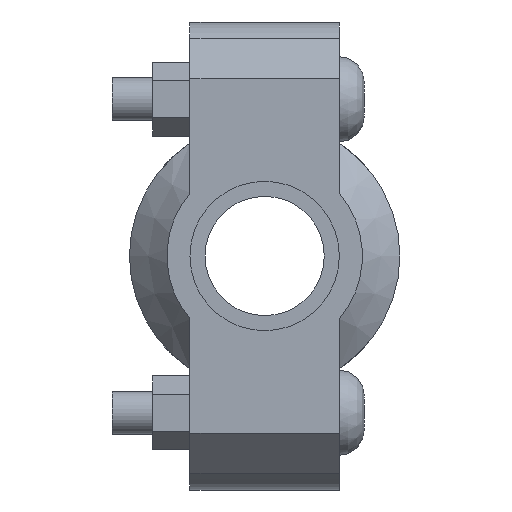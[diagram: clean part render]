
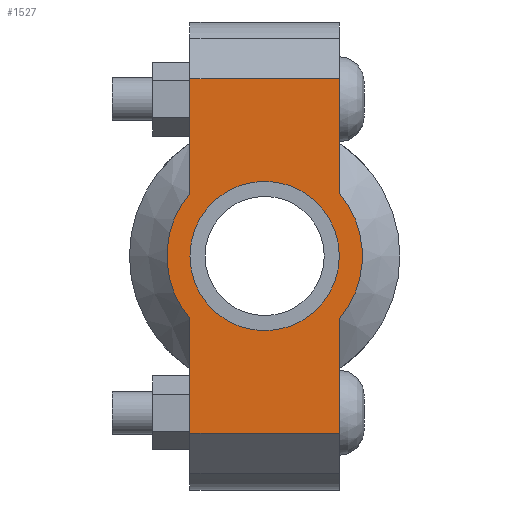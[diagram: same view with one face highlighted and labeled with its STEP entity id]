
A CAD part, left-side view. The second image highlights one B-rep face of the part: STEP entity #1527.
In plain terms, the highlighted planar face has unit normal (-1, 0, 0) as drawn and (0, 0, 1) by its records, which use the part's own axes.
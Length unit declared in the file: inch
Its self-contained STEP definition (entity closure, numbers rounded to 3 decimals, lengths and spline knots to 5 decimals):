
#138=LINE('',#2623,#233);
#153=LINE('',#2682,#248);
#161=LINE('',#2712,#256);
#163=LINE('',#2715,#258);
#164=LINE('',#2720,#259);
#165=LINE('',#2721,#260);
#233=VECTOR('',#2121,0.3937);
#248=VECTOR('',#2156,0.3937);
#256=VECTOR('',#2176,0.3937);
#258=VECTOR('',#2180,0.3937);
#259=VECTOR('',#2185,0.3937);
#260=VECTOR('',#2186,0.3937);
#320=FACE_BOUND('',#479,.T.);
#380=FACE_OUTER_BOUND('',#478,.T.);
#478=EDGE_LOOP('',(#1222,#1223,#1224,#1225,#1226,#1227,#1228,#1229));
#479=EDGE_LOOP('',(#1230));
#584=CIRCLE('',#1790,0.86);
#585=CIRCLE('',#1791,0.86);
#586=CIRCLE('',#1792,0.6575);
#693=VERTEX_POINT('',#2620);
#694=VERTEX_POINT('',#2622);
#715=VERTEX_POINT('',#2677);
#716=VERTEX_POINT('',#2681);
#725=VERTEX_POINT('',#2707);
#726=VERTEX_POINT('',#2711);
#727=VERTEX_POINT('',#2717);
#728=VERTEX_POINT('',#2719);
#729=VERTEX_POINT('',#2723);
#863=EDGE_CURVE('',#694,#693,#138,.T.);
#888=EDGE_CURVE('',#716,#715,#153,.T.);
#901=EDGE_CURVE('',#726,#725,#161,.T.);
#903=EDGE_CURVE('',#726,#693,#163,.T.);
#904=EDGE_CURVE('',#725,#727,#584,.T.);
#905=EDGE_CURVE('',#727,#728,#164,.T.);
#906=EDGE_CURVE('',#716,#728,#165,.T.);
#907=EDGE_CURVE('',#715,#694,#585,.T.);
#908=EDGE_CURVE('',#729,#729,#586,.T.);
#1222=ORIENTED_EDGE('',*,*,#903,.F.);
#1223=ORIENTED_EDGE('',*,*,#901,.T.);
#1224=ORIENTED_EDGE('',*,*,#904,.T.);
#1225=ORIENTED_EDGE('',*,*,#905,.T.);
#1226=ORIENTED_EDGE('',*,*,#906,.F.);
#1227=ORIENTED_EDGE('',*,*,#888,.T.);
#1228=ORIENTED_EDGE('',*,*,#907,.T.);
#1229=ORIENTED_EDGE('',*,*,#863,.T.);
#1230=ORIENTED_EDGE('',*,*,#908,.T.);
#1379=PLANE('',#1789);
#1527=ADVANCED_FACE('',(#380,#320),#1379,.T.);
#1789=AXIS2_PLACEMENT_3D('',#2716,#2181,#2182);
#1790=AXIS2_PLACEMENT_3D('',#2718,#2183,#2184);
#1791=AXIS2_PLACEMENT_3D('',#2722,#2187,#2188);
#1792=AXIS2_PLACEMENT_3D('',#2724,#2189,#2190);
#2121=DIRECTION('',(1.,0.,0.));
#2156=DIRECTION('',(1.,0.,0.));
#2176=DIRECTION('',(-1.,0.,0.));
#2180=DIRECTION('',(0.,-1.,0.));
#2181=DIRECTION('center_axis',(0.,0.,1.));
#2182=DIRECTION('ref_axis',(-1.,0.,0.));
#2183=DIRECTION('center_axis',(0.,0.,1.));
#2184=DIRECTION('ref_axis',(1.,0.,0.));
#2185=DIRECTION('',(-1.,0.,0.));
#2186=DIRECTION('',(0.,1.,0.));
#2187=DIRECTION('center_axis',(0.,0.,1.));
#2188=DIRECTION('ref_axis',(1.,0.,0.));
#2189=DIRECTION('center_axis',(0.,0.,-1.));
#2190=DIRECTION('ref_axis',(1.,0.,0.));
#2620=CARTESIAN_POINT('',(1.56,-0.6575,0.875));
#2622=CARTESIAN_POINT('',(0.55434,-0.6575,0.875));
#2623=CARTESIAN_POINT('',(-2.06,-0.6575,0.875));
#2677=CARTESIAN_POINT('',(-0.55434,-0.6575,0.875));
#2681=CARTESIAN_POINT('',(-1.56,-0.6575,0.875));
#2682=CARTESIAN_POINT('',(-2.06,-0.6575,0.875));
#2707=CARTESIAN_POINT('',(0.55434,0.6575,0.875));
#2711=CARTESIAN_POINT('',(1.56,0.6575,0.875));
#2712=CARTESIAN_POINT('',(2.06,0.6575,0.875));
#2715=CARTESIAN_POINT('',(1.56,-0.32875,0.875));
#2716=CARTESIAN_POINT('Origin',(0.,0.,
0.875));
#2717=CARTESIAN_POINT('',(-0.55434,0.6575,0.875));
#2718=CARTESIAN_POINT('Origin',(0.,0.,0.875));
#2719=CARTESIAN_POINT('',(-1.56,0.6575,0.875));
#2720=CARTESIAN_POINT('',(2.06,0.6575,0.875));
#2721=CARTESIAN_POINT('',(-1.56,0.32875,0.875));
#2722=CARTESIAN_POINT('Origin',(0.,0.,0.875));
#2723=CARTESIAN_POINT('',(-0.6575,0.,0.875));
#2724=CARTESIAN_POINT('Origin',(0.,0.,0.875));
